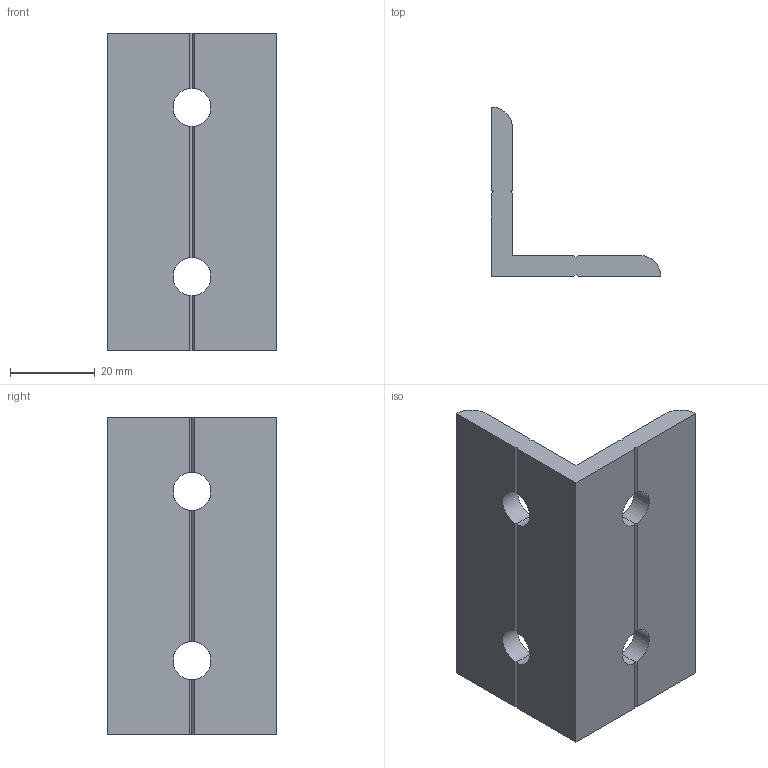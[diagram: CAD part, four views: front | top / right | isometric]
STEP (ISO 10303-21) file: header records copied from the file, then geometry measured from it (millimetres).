
FILE_DESCRIPTION (( 'STEP AP203' ), '1' );
FILE_NAME ('WL7540-8.STEP', '2024-02-19T06:12:13', ( '' ), ( '' ), 'SwSTEP 2.0', 'SolidWorks 2022', '' );
FILE_SCHEMA (( 'CONFIG_CONTROL_DESIGN' ));
Length unit declared in the file: millimetre
Products named in the file (1): WL7540-8
Bounding box: 40 x 40 x 75 mm (x, y, z)
Volume: 25990.9 mm3; surface area: 12551.7 mm2
Topology: 1 solids, 1 shells, 44 faces, 134 edges, 84 vertices
Faces by surface type: plane 34, cylinder 10
Entity records: 1563 total; most frequent: CARTESIAN_POINT 359, ORIENTED_EDGE 268, DIRECTION 212, EDGE_CURVE 134, VERTEX_POINT 84, VECTOR 82, LINE 82, AXIS2_PLACEMENT_3D 65
